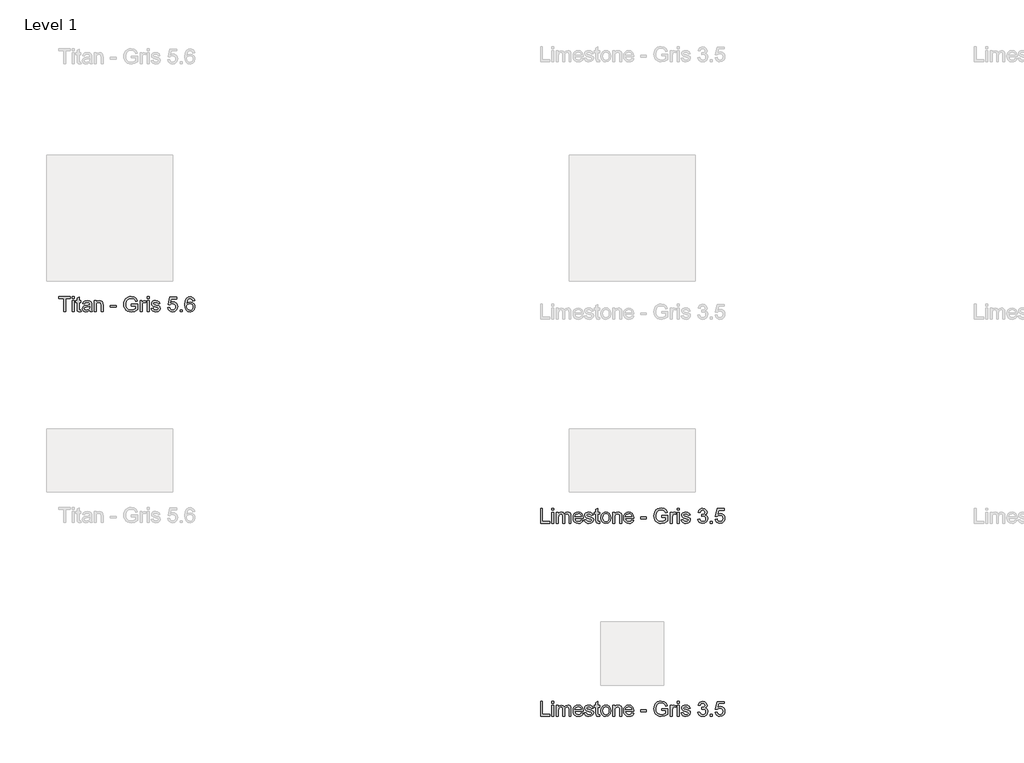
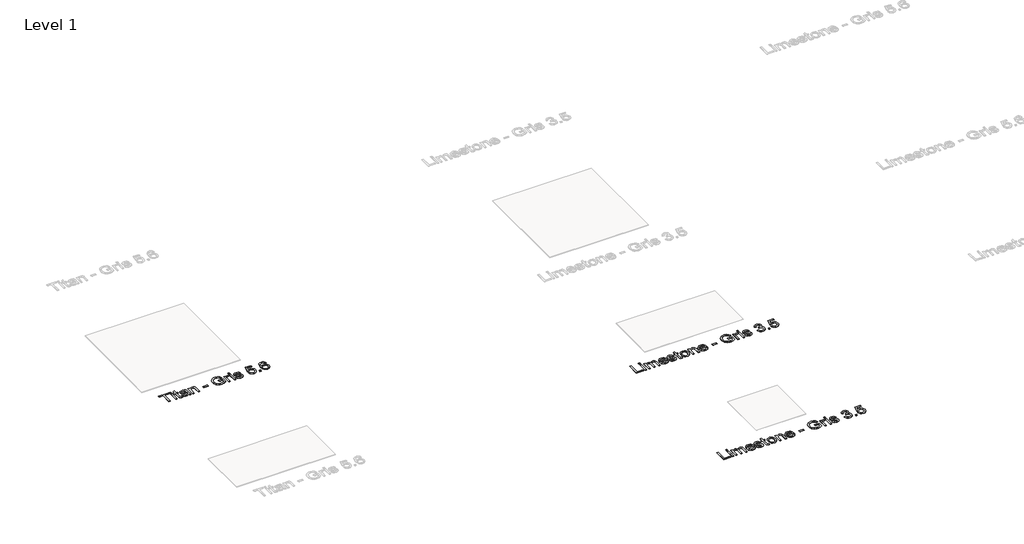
# One storey, part 4 of 80: 3 proxies.
"""IFC4 building model written with IfcOpenShell, lengths in millimetres."""

from ifc_helpers import new_model, si_unit, origin, origin_with_axes, place, context, project, spatial, polyline, outline, extrude, element, save

model = new_model("IFC4")

# Units and contexts
model_context = context("Model", 3, world=origin())
ifc_project = project(units=[si_unit("LENGTHUNIT", "METRE", prefix="MILLI")], contexts=[model_context])

# Site, building, storey
site = spatial("IfcSite", under=ifc_project)
building = spatial("IfcBuilding", under=site)
storey = spatial("IfcBuildingStorey", under=building, Name="Level 1", Elevation=0.0)

# Proxies
placement = place(None, origin())
element("IfcBuildingElementProxy", 1, Name="24\" Arial", ObjectType="24\" Arial", at=placement, inside=storey, context=model_context, shape_type="SweptSolid", body=[
    extrude(outline(polyline([(-19231.9991848, -20313.2188289), (-19231.9991848, -20195.0649827), (-19217.2299541, -20195.0649827), (-19217.2299541, -20298.4495981), (-19158.153031, -20298.4495981), (-19158.153031, -20313.2188289), (-19231.9991848, -20313.2188289)])), origin_with_axes(), (0.0, 0.0, 1.0), 2.0),
    extrude(outline(polyline([(-19143.3838002, -20209.8342135), (-19143.3838002, -20195.0649827), (-19128.6145694, -20195.0649827), (-19128.6145694, -20209.8342135), (-19143.3838002, -20209.8342135)])), origin_with_axes(), (0.0, 0.0, 1.0), 2.0),
    extrude(outline(polyline([(-19143.3838002, -20313.2188289), (-19143.3838002, -20226.4495981), (-19128.6145694, -20226.4495981), (-19128.6145694, -20313.2188289), (-19143.3838002, -20313.2188289)])), origin_with_axes(), (0.0, 0.0, 1.0), 2.0),
    extrude(outline(polyline([(-19106.4607233, -20313.2188289), (-19106.4607233, -20226.4495981), (-19091.6914925, -20226.4495981), (-19091.6914925, -20240.7284443), (-19081.5376464, -20229.0313289), (-19067.0857233, -20224.6034443), (-19052.2876464, -20229.1178673), (-19044.153031, -20241.7669058), (-19032.6289925, -20228.8943097), (-19018.0761079, -20224.6034443), (-19006.9739444, -20226.3883), (-18998.7636079, -20231.7428673), (-18993.6902906, -20240.811377), (-18991.9991848, -20253.7380597), (-18991.9991848, -20313.2188289), (-19006.7684156, -20313.2188289), (-19006.7684156, -20260.0842135), (-19008.1386079, -20247.7524827), (-19013.1001464, -20241.6803673), (-19021.5376464, -20239.372675), (-19029.5388483, -20240.8510404), (-19036.0616848, -20245.2861366), (-19040.3994252, -20252.9808481), (-19041.8453387, -20264.2380597), (-19041.8453387, -20313.2188289), (-19056.6145694, -20313.2188289), (-19056.6145694, -20258.4399827), (-19060.0328387, -20244.1322904), (-19071.2395694, -20239.372675), (-19082.1722617, -20242.545752), (-19089.4414925, -20251.8342135), (-19091.6914925, -20269.4592135), (-19091.6914925, -20313.2188289), (-19106.4607233, -20313.2188289)])), origin_with_axes(), (0.0, 0.0, 1.0), 2.0),
    extrude(outline(polyline([(-18909.0953387, -20287.372675), (-18894.6145694, -20289.2188289), (-18899.8321175, -20300.1298866), (-18908.1578387, -20308.2861366), (-18919.4042329, -20313.3702712), (-18933.3838002, -20315.0649827), (-18950.7131271, -20312.1407039), (-18964.0472617, -20303.3678673), (-18972.5496656, -20289.3161847), (-18975.3838002, -20270.5553673), (-18972.5208194, -20251.1635404), (-18963.9318771, -20236.6611366), (-18950.778031, -20227.6178673), (-18934.2203387, -20224.6034443), (-18918.1782714, -20227.6106558), (-18905.3597617, -20236.6322904), (-18896.9547137, -20251.1058481), (-18894.153031, -20270.4688289), (-18894.2395694, -20274.4495981), (-18960.6145694, -20274.4495981), (-18958.0580791, -20285.5048866), (-18952.1193771, -20293.6322904), (-18943.5484637, -20298.6298866), (-18933.0953387, -20300.295752), (-18918.6145694, -20297.2092135), (-18909.0953387, -20287.372675)]), holes=[polyline([(-18960.6145694, -20259.6803673), (-18908.9222617, -20259.6803673), (-18914.8357233, -20246.295752), (-18923.4463002, -20241.1034443), (-18934.278031, -20239.372675), (-18952.465531, -20244.8967135), (-18958.1878867, -20251.3546462), (-18960.6145694, -20259.6803673)])]), origin_with_axes(), (0.0, 0.0, 1.0), 2.0),
    extrude(outline(polyline([(-18884.9222617, -20287.372675), (-18870.153031, -20285.5265212), (-18863.3164925, -20296.4880597), (-18847.653031, -20300.295752), (-18832.5953387, -20296.8053673), (-18827.6914925, -20288.6130597), (-18832.6241848, -20281.9784443), (-18847.8261079, -20277.7669058), (-18870.0664925, -20270.5409443), (-18879.7732233, -20262.1034443), (-18883.0761079, -20250.1899827), (-18880.4222617, -20239.185175), (-18873.1818771, -20230.7765212), (-18863.7924541, -20226.4063289), (-18851.0857233, -20224.6034443), (-18833.1145694, -20227.5024827), (-18821.6914925, -20235.3486366), (-18816.6145694, -20248.6034443), (-18831.3838002, -20250.4495981), (-18836.9366848, -20242.3005597), (-18849.9318771, -20239.372675), (-18864.0664925, -20242.170752), (-18868.3068771, -20248.6899827), (-18866.5472617, -20252.9880597), (-18861.0376464, -20256.247675), (-18848.3164925, -20259.3919058), (-18826.6386079, -20266.3438289), (-18816.5713002, -20274.2188289), (-18812.9222617, -20287.0553673), (-18817.2059156, -20301.1899827), (-18829.5664925, -20311.4447904), (-18847.8549541, -20315.0649827), (-18862.746781, -20313.3197904), (-18873.6145694, -20308.0842135), (-18880.8693771, -20299.4159443), (-18884.9222617, -20287.372675)])), origin_with_axes(), (0.0, 0.0, 1.0), 2.0),
    extrude(outline(polyline([(-18764.9222617, -20300.9015212), (-18763.0761079, -20313.6515212), (-18774.1241848, -20315.0649827), (-18786.4991848, -20312.6130597), (-18792.6722617, -20306.1803673), (-18794.4607233, -20289.420752), (-18794.4607233, -20241.2188289), (-18805.5376464, -20241.2188289), (-18805.5376464, -20226.4495981), (-18794.4607233, -20226.4495981), (-18794.4607233, -20205.3630597), (-18779.6914925, -20196.6803673), (-18779.6914925, -20226.4495981), (-18764.9222617, -20226.4495981), (-18764.9222617, -20241.2188289), (-18779.6914925, -20241.2188289), (-18779.6914925, -20288.9880597), (-18778.9126464, -20296.6034443), (-18776.3886079, -20299.3005597), (-18771.3549541, -20300.295752), (-18764.9222617, -20300.9015212)])), origin_with_axes(), (0.0, 0.0, 1.0), 2.0),
    extrude(outline(polyline([(-18753.8453387, -20269.8342135), (-18750.6506271, -20248.9135404), (-18741.0664925, -20234.2092135), (-18729.2251464, -20227.0048866), (-18715.0472617, -20224.6034443), (-18699.5316367, -20227.5277231), (-18687.1386079, -20236.3005597), (-18679.0148098, -20250.2296462), (-18676.3068771, -20268.622675), (-18681.0953387, -20294.9015212), (-18695.0424541, -20309.7717135), (-18715.0472617, -20315.0649827), (-18730.7503867, -20312.1515212), (-18743.1289925, -20303.4111366), (-18751.1662521, -20289.1899827), (-18753.8453387, -20269.8342135)]), holes=[polyline([(-18739.0761079, -20269.8053673), (-18737.3669733, -20283.1719539), (-18732.2395694, -20292.6947904), (-18724.5232233, -20298.3955116), (-18715.0472617, -20300.295752), (-18705.6145694, -20298.3846943), (-18697.9126464, -20292.6515212), (-18692.7852425, -20283.0024827), (-18691.0761079, -20269.3438289), (-18692.7960598, -20256.3666654), (-18697.9559156, -20246.9736366), (-18705.668656, -20241.2729154), (-18715.0472617, -20239.372675), (-18724.5232233, -20241.2657039), (-18732.2395694, -20246.9447904), (-18737.3669733, -20256.4459923), (-18739.0761079, -20269.8053673)])]), origin_with_axes(), (0.0, 0.0, 1.0), 2.0),
    extrude(outline(polyline([(-18659.6914925, -20313.2188289), (-18659.6914925, -20226.4495981), (-18644.9222617, -20226.4495981), (-18644.9222617, -20238.5649827), (-18633.6289925, -20228.0938289), (-18618.2107233, -20224.6034443), (-18604.2636079, -20227.4159443), (-18594.7443771, -20234.8005597), (-18590.3164925, -20245.6611366), (-18589.5376464, -20259.9399827), (-18589.5376464, -20313.2188289), (-18604.3068771, -20313.2188289), (-18604.3068771, -20261.9303673), (-18606.0088002, -20248.8630597), (-18612.0232233, -20241.9544058), (-18622.1626464, -20239.372675), (-18638.1866848, -20245.170752), (-18643.2383675, -20253.5721943), (-18644.9222617, -20267.1803673), (-18644.9222617, -20313.2188289), (-18659.6914925, -20313.2188289)])), origin_with_axes(), (0.0, 0.0, 1.0), 2.0),
    extrude(outline(polyline([(-18508.4799541, -20287.372675), (-18493.9991848, -20289.2188289), (-18499.2167329, -20300.1298866), (-18507.5424541, -20308.2861366), (-18518.7888483, -20313.3702712), (-18532.7684156, -20315.0649827), (-18550.0977425, -20312.1407039), (-18563.4318771, -20303.3678673), (-18571.934281, -20289.3161847), (-18574.7684156, -20270.5553673), (-18571.9054348, -20251.1635404), (-18563.3164925, -20236.6611366), (-18550.1626464, -20227.6178673), (-18533.6049541, -20224.6034443), (-18517.5628867, -20227.6106558), (-18504.7443771, -20236.6322904), (-18496.3393291, -20251.1058481), (-18493.5376464, -20270.4688289), (-18493.6241848, -20274.4495981), (-18559.9991848, -20274.4495981), (-18557.4426944, -20285.5048866), (-18551.5039925, -20293.6322904), (-18542.9330791, -20298.6298866), (-18532.4799541, -20300.295752), (-18517.9991848, -20297.2092135), (-18508.4799541, -20287.372675)]), holes=[polyline([(-18559.9991848, -20259.6803673), (-18508.3068771, -20259.6803673), (-18514.2203387, -20246.295752), (-18522.8309156, -20241.1034443), (-18533.6626464, -20239.372675), (-18551.8501464, -20244.8967135), (-18557.5725021, -20251.3546462), (-18559.9991848, -20259.6803673)])]), origin_with_axes(), (0.0, 0.0, 1.0), 2.0),
    extrude(outline(polyline([(-18439.9991848, -20278.1419058), (-18439.9991848, -20263.372675), (-18393.8453387, -20263.372675), (-18393.8453387, -20278.1419058), (-18439.9991848, -20278.1419058)])), origin_with_axes(), (0.0, 0.0, 1.0), 2.0),
    extrude(outline(polyline([(-18273.8453387, -20267.0649827), (-18273.8453387, -20252.295752), (-18225.8453387, -20252.295752), (-18225.8453387, -20296.4592135), (-18249.5424541, -20310.3919058), (-18274.5953387, -20315.0649827), (-18291.1638483, -20313.2080116), (-18306.1386079, -20307.6370981), (-18318.5785117, -20298.5469539), (-18327.5424541, -20286.1322904), (-18332.9619252, -20271.2404635), (-18334.7684156, -20254.7188289), (-18332.9691367, -20238.0782039), (-18327.5713002, -20222.5986366), (-18318.7984637, -20209.6142616), (-18306.8741848, -20200.4592135), (-18292.3501464, -20195.028925), (-18275.778031, -20193.2188289), (-18252.6722617, -20197.4159443), (-18236.4751464, -20209.0986366), (-18227.5472617, -20228.6419058), (-18241.1626464, -20232.4784443), (-18247.8982233, -20218.8197904), (-18259.4078387, -20210.9447904), (-18276.0088002, -20207.9880597), (-18294.9174541, -20211.1755597), (-18307.7828387, -20219.5409443), (-18315.3838002, -20230.920752), (-18319.9991848, -20254.1130597), (-18318.6109637, -20268.2368577), (-18314.4463002, -20279.858252), (-18307.6313964, -20288.8943097), (-18298.2924541, -20295.2620981), (-18275.778031, -20300.295752), (-18255.5713002, -20296.5024827), (-18240.6145694, -20288.4111366), (-18240.6145694, -20267.0649827), (-18273.8453387, -20267.0649827)])), origin_with_axes(), (0.0, 0.0, 1.0), 2.0),
    extrude(outline(polyline([(-18203.6914925, -20313.2188289), (-18203.6914925, -20226.4495981), (-18190.7684156, -20226.4495981), (-18190.7684156, -20239.2861366), (-18181.5953387, -20227.4592135), (-18172.3645694, -20224.6034443), (-18157.5376464, -20229.1611366), (-18162.4703387, -20242.4015212), (-18172.8549541, -20239.372675), (-18181.2059156, -20242.2861366), (-18186.528031, -20250.3630597), (-18188.9222617, -20267.6130597), (-18188.9222617, -20313.2188289), (-18203.6914925, -20313.2188289)])), origin_with_axes(), (0.0, 0.0, 1.0), 2.0),
    extrude(outline(polyline([(-18148.3068771, -20209.8342135), (-18148.3068771, -20195.0649827), (-18133.5376464, -20195.0649827), (-18133.5376464, -20209.8342135), (-18148.3068771, -20209.8342135)])), origin_with_axes(), (0.0, 0.0, 1.0), 2.0),
    extrude(outline(polyline([(-18148.3068771, -20313.2188289), (-18148.3068771, -20226.4495981), (-18133.5376464, -20226.4495981), (-18133.5376464, -20313.2188289), (-18148.3068771, -20313.2188289)])), origin_with_axes(), (0.0, 0.0, 1.0), 2.0),
    extrude(outline(polyline([(-18116.9222617, -20287.372675), (-18102.153031, -20285.5265212), (-18095.3164925, -20296.4880597), (-18079.653031, -20300.295752), (-18064.5953387, -20296.8053673), (-18059.6914925, -20288.6130597), (-18064.6241848, -20281.9784443), (-18079.8261079, -20277.7669058), (-18102.0664925, -20270.5409443), (-18111.7732233, -20262.1034443), (-18115.0761079, -20250.1899827), (-18112.4222617, -20239.185175), (-18105.1818771, -20230.7765212), (-18095.7924541, -20226.4063289), (-18083.0857233, -20224.6034443), (-18065.1145694, -20227.5024827), (-18053.6914925, -20235.3486366), (-18048.6145694, -20248.6034443), (-18063.3838002, -20250.4495981), (-18068.9366848, -20242.3005597), (-18081.9318771, -20239.372675), (-18096.0664925, -20242.170752), (-18100.3068771, -20248.6899827), (-18098.5472617, -20252.9880597), (-18093.0376464, -20256.247675), (-18080.3164925, -20259.3919058), (-18058.6386079, -20266.3438289), (-18048.5713002, -20274.2188289), (-18044.9222617, -20287.0553673), (-18049.2059156, -20301.1899827), (-18061.5664925, -20311.4447904), (-18079.8549541, -20315.0649827), (-18094.746781, -20313.3197904), (-18105.6145694, -20308.0842135), (-18112.8693771, -20299.4159443), (-18116.9222617, -20287.372675)])), origin_with_axes(), (0.0, 0.0, 1.0), 2.0),
    extrude(outline(polyline([(-17985.8453387, -20281.8342135), (-17971.0761079, -20279.9880597), (-17962.9270694, -20295.5361366), (-17947.6818771, -20300.295752), (-17937.5568771, -20298.6587327), (-17929.7395694, -20293.747675), (-17924.7419733, -20286.420752), (-17923.0761079, -20277.5361366), (-17924.7275502, -20269.1022423), (-17929.6818771, -20262.2620981), (-17937.1818771, -20257.7296462), (-17946.4703387, -20256.2188289), (-17956.8261079, -20257.8342135), (-17955.1818771, -20243.0649827), (-17952.8164925, -20243.2380597), (-17936.0568771, -20238.997675), (-17930.4751464, -20233.6178673), (-17928.6145694, -20225.9592135), (-17934.0088002, -20214.4063289), (-17947.9126464, -20209.8342135), (-17961.9895694, -20214.4495981), (-17969.2299541, -20228.295752), (-17983.9991848, -20226.4495981), (-17979.6506271, -20213.1875789), (-17971.9126464, -20203.2861366), (-17961.3261079, -20197.1202712), (-17948.4318771, -20195.0649827), (-17930.6193771, -20199.1178673), (-17918.1578387, -20210.1947904), (-17913.8453387, -20225.0938289), (-17917.9414925, -20238.7092135), (-17930.0568771, -20248.4880597), (-17920.8116848, -20252.2236366), (-17913.9607233, -20258.5842135), (-17909.7203387, -20267.2236366), (-17908.3068771, -20277.795752), (-17911.1338002, -20292.1899827), (-17919.6145694, -20304.2188289), (-17932.4150502, -20312.3534443), (-17948.2011079, -20315.0649827), (-17962.4799541, -20312.7500789), (-17974.1049541, -20305.8053673), (-17982.1890887, -20295.1827712), (-17985.8453387, -20281.8342135)])), origin_with_axes(), (0.0, 0.0, 1.0), 2.0),
    extrude(outline(polyline([(-17887.9991848, -20313.2188289), (-17887.9991848, -20298.4495981), (-17873.2299541, -20298.4495981), (-17873.2299541, -20313.2188289), (-17887.9991848, -20313.2188289)])), origin_with_axes(), (0.0, 0.0, 1.0), 2.0),
    extrude(outline(polyline([(-17849.2299541, -20281.8342135), (-17834.4607233, -20279.9880597), (-17827.0184156, -20295.2044058), (-17811.5857233, -20300.295752), (-17800.9991848, -20298.5253193), (-17793.0664925, -20293.2140212), (-17788.1121656, -20284.9748385), (-17786.4607233, -20274.420752), (-17788.0075983, -20264.483252), (-17792.6482233, -20256.8822904), (-17800.418656, -20252.0577712), (-17811.3549541, -20250.4495981), (-17824.3213002, -20253.0169058), (-17832.6145694, -20259.6803673), (-17847.3838002, -20257.8342135), (-17834.4607233, -20196.9111366), (-17777.2299541, -20196.9111366), (-17777.2299541, -20211.6803673), (-17822.5184156, -20211.6803673), (-17828.8357233, -20244.2188289), (-17818.2852425, -20237.8149827), (-17807.2299541, -20235.6803673), (-17793.4306752, -20238.327002), (-17781.9751464, -20246.2669058), (-17774.262406, -20258.3678673), (-17771.6914925, -20273.497675), (-17774.0063964, -20288.2669058), (-17780.9511079, -20300.9015212), (-17794.2491848, -20311.5241173), (-17811.6434156, -20315.0649827), (-17826.1494252, -20312.7897423), (-17837.7059156, -20305.9640212), (-17845.6277906, -20295.3810885), (-17849.2299541, -20281.8342135)])), origin_with_axes(), (0.0, 0.0, 1.0), 2.0),
])
element("IfcBuildingElementProxy", 2, Name="24\" Arial", ObjectType="24\" Arial", at=placement, inside=storey, context=model_context, shape_type="SweptSolid", body=[
    extrude(outline(polyline([(-19231.9991848, -21843.2188289), (-19231.9991848, -21725.0649827), (-19217.2299541, -21725.0649827), (-19217.2299541, -21828.4495981), (-19158.153031, -21828.4495981), (-19158.153031, -21843.2188289), (-19231.9991848, -21843.2188289)])), origin_with_axes(), (0.0, 0.0, 1.0), 2.0),
    extrude(outline(polyline([(-19143.3838002, -21739.8342135), (-19143.3838002, -21725.0649827), (-19128.6145694, -21725.0649827), (-19128.6145694, -21739.8342135), (-19143.3838002, -21739.8342135)])), origin_with_axes(), (0.0, 0.0, 1.0), 2.0),
    extrude(outline(polyline([(-19143.3838002, -21843.2188289), (-19143.3838002, -21756.4495981), (-19128.6145694, -21756.4495981), (-19128.6145694, -21843.2188289), (-19143.3838002, -21843.2188289)])), origin_with_axes(), (0.0, 0.0, 1.0), 2.0),
    extrude(outline(polyline([(-19106.4607233, -21843.2188289), (-19106.4607233, -21756.4495981), (-19091.6914925, -21756.4495981), (-19091.6914925, -21770.7284443), (-19081.5376464, -21759.0313289), (-19067.0857233, -21754.6034443), (-19052.2876464, -21759.1178673), (-19044.153031, -21771.7669058), (-19032.6289925, -21758.8943097), (-19018.0761079, -21754.6034443), (-19006.9739444, -21756.3883), (-18998.7636079, -21761.7428673), (-18993.6902906, -21770.811377), (-18991.9991848, -21783.7380597), (-18991.9991848, -21843.2188289), (-19006.7684156, -21843.2188289), (-19006.7684156, -21790.0842135), (-19008.1386079, -21777.7524827), (-19013.1001464, -21771.6803673), (-19021.5376464, -21769.372675), (-19029.5388483, -21770.8510404), (-19036.0616848, -21775.2861366), (-19040.3994252, -21782.9808481), (-19041.8453387, -21794.2380597), (-19041.8453387, -21843.2188289), (-19056.6145694, -21843.2188289), (-19056.6145694, -21788.4399827), (-19060.0328387, -21774.1322904), (-19071.2395694, -21769.372675), (-19082.1722617, -21772.545752), (-19089.4414925, -21781.8342135), (-19091.6914925, -21799.4592135), (-19091.6914925, -21843.2188289), (-19106.4607233, -21843.2188289)])), origin_with_axes(), (0.0, 0.0, 1.0), 2.0),
    extrude(outline(polyline([(-18909.0953387, -21817.372675), (-18894.6145694, -21819.2188289), (-18899.8321175, -21830.1298866), (-18908.1578387, -21838.2861366), (-18919.4042329, -21843.3702712), (-18933.3838002, -21845.0649827), (-18950.7131271, -21842.1407039), (-18964.0472617, -21833.3678673), (-18972.5496656, -21819.3161847), (-18975.3838002, -21800.5553673), (-18972.5208194, -21781.1635404), (-18963.9318771, -21766.6611366), (-18950.778031, -21757.6178673), (-18934.2203387, -21754.6034443), (-18918.1782714, -21757.6106558), (-18905.3597617, -21766.6322904), (-18896.9547137, -21781.1058481), (-18894.153031, -21800.4688289), (-18894.2395694, -21804.4495981), (-18960.6145694, -21804.4495981), (-18958.0580791, -21815.5048866), (-18952.1193771, -21823.6322904), (-18943.5484637, -21828.6298866), (-18933.0953387, -21830.295752), (-18918.6145694, -21827.2092135), (-18909.0953387, -21817.372675)]), holes=[polyline([(-18960.6145694, -21789.6803673), (-18908.9222617, -21789.6803673), (-18914.8357233, -21776.295752), (-18923.4463002, -21771.1034443), (-18934.278031, -21769.372675), (-18952.465531, -21774.8967135), (-18958.1878867, -21781.3546462), (-18960.6145694, -21789.6803673)])]), origin_with_axes(), (0.0, 0.0, 1.0), 2.0),
    extrude(outline(polyline([(-18884.9222617, -21817.372675), (-18870.153031, -21815.5265212), (-18863.3164925, -21826.4880597), (-18847.653031, -21830.295752), (-18832.5953387, -21826.8053673), (-18827.6914925, -21818.6130597), (-18832.6241848, -21811.9784443), (-18847.8261079, -21807.7669058), (-18870.0664925, -21800.5409443), (-18879.7732233, -21792.1034443), (-18883.0761079, -21780.1899827), (-18880.4222617, -21769.185175), (-18873.1818771, -21760.7765212), (-18863.7924541, -21756.4063289), (-18851.0857233, -21754.6034443), (-18833.1145694, -21757.5024827), (-18821.6914925, -21765.3486366), (-18816.6145694, -21778.6034443), (-18831.3838002, -21780.4495981), (-18836.9366848, -21772.3005597), (-18849.9318771, -21769.372675), (-18864.0664925, -21772.170752), (-18868.3068771, -21778.6899827), (-18866.5472617, -21782.9880597), (-18861.0376464, -21786.247675), (-18848.3164925, -21789.3919058), (-18826.6386079, -21796.3438289), (-18816.5713002, -21804.2188289), (-18812.9222617, -21817.0553673), (-18817.2059156, -21831.1899827), (-18829.5664925, -21841.4447904), (-18847.8549541, -21845.0649827), (-18862.746781, -21843.3197904), (-18873.6145694, -21838.0842135), (-18880.8693771, -21829.4159443), (-18884.9222617, -21817.372675)])), origin_with_axes(), (0.0, 0.0, 1.0), 2.0),
    extrude(outline(polyline([(-18764.9222617, -21830.9015212), (-18763.0761079, -21843.6515212), (-18774.1241848, -21845.0649827), (-18786.4991848, -21842.6130597), (-18792.6722617, -21836.1803673), (-18794.4607233, -21819.420752), (-18794.4607233, -21771.2188289), (-18805.5376464, -21771.2188289), (-18805.5376464, -21756.4495981), (-18794.4607233, -21756.4495981), (-18794.4607233, -21735.3630597), (-18779.6914925, -21726.6803673), (-18779.6914925, -21756.4495981), (-18764.9222617, -21756.4495981), (-18764.9222617, -21771.2188289), (-18779.6914925, -21771.2188289), (-18779.6914925, -21818.9880597), (-18778.9126464, -21826.6034443), (-18776.3886079, -21829.3005597), (-18771.3549541, -21830.295752), (-18764.9222617, -21830.9015212)])), origin_with_axes(), (0.0, 0.0, 1.0), 2.0),
    extrude(outline(polyline([(-18753.8453387, -21799.8342135), (-18750.6506271, -21778.9135404), (-18741.0664925, -21764.2092135), (-18729.2251464, -21757.0048866), (-18715.0472617, -21754.6034443), (-18699.5316367, -21757.5277231), (-18687.1386079, -21766.3005597), (-18679.0148098, -21780.2296462), (-18676.3068771, -21798.622675), (-18681.0953387, -21824.9015212), (-18695.0424541, -21839.7717135), (-18715.0472617, -21845.0649827), (-18730.7503867, -21842.1515212), (-18743.1289925, -21833.4111366), (-18751.1662521, -21819.1899827), (-18753.8453387, -21799.8342135)]), holes=[polyline([(-18739.0761079, -21799.8053673), (-18737.3669733, -21813.1719539), (-18732.2395694, -21822.6947904), (-18724.5232233, -21828.3955116), (-18715.0472617, -21830.295752), (-18705.6145694, -21828.3846943), (-18697.9126464, -21822.6515212), (-18692.7852425, -21813.0024827), (-18691.0761079, -21799.3438289), (-18692.7960598, -21786.3666654), (-18697.9559156, -21776.9736366), (-18705.668656, -21771.2729154), (-18715.0472617, -21769.372675), (-18724.5232233, -21771.2657039), (-18732.2395694, -21776.9447904), (-18737.3669733, -21786.4459923), (-18739.0761079, -21799.8053673)])]), origin_with_axes(), (0.0, 0.0, 1.0), 2.0),
    extrude(outline(polyline([(-18659.6914925, -21843.2188289), (-18659.6914925, -21756.4495981), (-18644.9222617, -21756.4495981), (-18644.9222617, -21768.5649827), (-18633.6289925, -21758.0938289), (-18618.2107233, -21754.6034443), (-18604.2636079, -21757.4159443), (-18594.7443771, -21764.8005597), (-18590.3164925, -21775.6611366), (-18589.5376464, -21789.9399827), (-18589.5376464, -21843.2188289), (-18604.3068771, -21843.2188289), (-18604.3068771, -21791.9303673), (-18606.0088002, -21778.8630597), (-18612.0232233, -21771.9544058), (-18622.1626464, -21769.372675), (-18638.1866848, -21775.170752), (-18643.2383675, -21783.5721943), (-18644.9222617, -21797.1803673), (-18644.9222617, -21843.2188289), (-18659.6914925, -21843.2188289)])), origin_with_axes(), (0.0, 0.0, 1.0), 2.0),
    extrude(outline(polyline([(-18508.4799541, -21817.372675), (-18493.9991848, -21819.2188289), (-18499.2167329, -21830.1298866), (-18507.5424541, -21838.2861366), (-18518.7888483, -21843.3702712), (-18532.7684156, -21845.0649827), (-18550.0977425, -21842.1407039), (-18563.4318771, -21833.3678673), (-18571.934281, -21819.3161847), (-18574.7684156, -21800.5553673), (-18571.9054348, -21781.1635404), (-18563.3164925, -21766.6611366), (-18550.1626464, -21757.6178673), (-18533.6049541, -21754.6034443), (-18517.5628867, -21757.6106558), (-18504.7443771, -21766.6322904), (-18496.3393291, -21781.1058481), (-18493.5376464, -21800.4688289), (-18493.6241848, -21804.4495981), (-18559.9991848, -21804.4495981), (-18557.4426944, -21815.5048866), (-18551.5039925, -21823.6322904), (-18542.9330791, -21828.6298866), (-18532.4799541, -21830.295752), (-18517.9991848, -21827.2092135), (-18508.4799541, -21817.372675)]), holes=[polyline([(-18559.9991848, -21789.6803673), (-18508.3068771, -21789.6803673), (-18514.2203387, -21776.295752), (-18522.8309156, -21771.1034443), (-18533.6626464, -21769.372675), (-18551.8501464, -21774.8967135), (-18557.5725021, -21781.3546462), (-18559.9991848, -21789.6803673)])]), origin_with_axes(), (0.0, 0.0, 1.0), 2.0),
    extrude(outline(polyline([(-18439.9991848, -21808.1419058), (-18439.9991848, -21793.372675), (-18393.8453387, -21793.372675), (-18393.8453387, -21808.1419058), (-18439.9991848, -21808.1419058)])), origin_with_axes(), (0.0, 0.0, 1.0), 2.0),
    extrude(outline(polyline([(-18273.8453387, -21797.0649827), (-18273.8453387, -21782.295752), (-18225.8453387, -21782.295752), (-18225.8453387, -21826.4592135), (-18249.5424541, -21840.3919058), (-18274.5953387, -21845.0649827), (-18291.1638483, -21843.2080116), (-18306.1386079, -21837.6370981), (-18318.5785117, -21828.5469539), (-18327.5424541, -21816.1322904), (-18332.9619252, -21801.2404635), (-18334.7684156, -21784.7188289), (-18332.9691367, -21768.0782039), (-18327.5713002, -21752.5986366), (-18318.7984637, -21739.6142616), (-18306.8741848, -21730.4592135), (-18292.3501464, -21725.028925), (-18275.778031, -21723.2188289), (-18252.6722617, -21727.4159443), (-18236.4751464, -21739.0986366), (-18227.5472617, -21758.6419058), (-18241.1626464, -21762.4784443), (-18247.8982233, -21748.8197904), (-18259.4078387, -21740.9447904), (-18276.0088002, -21737.9880597), (-18294.9174541, -21741.1755597), (-18307.7828387, -21749.5409443), (-18315.3838002, -21760.920752), (-18319.9991848, -21784.1130597), (-18318.6109637, -21798.2368577), (-18314.4463002, -21809.858252), (-18307.6313964, -21818.8943097), (-18298.2924541, -21825.2620981), (-18275.778031, -21830.295752), (-18255.5713002, -21826.5024827), (-18240.6145694, -21818.4111366), (-18240.6145694, -21797.0649827), (-18273.8453387, -21797.0649827)])), origin_with_axes(), (0.0, 0.0, 1.0), 2.0),
    extrude(outline(polyline([(-18203.6914925, -21843.2188289), (-18203.6914925, -21756.4495981), (-18190.7684156, -21756.4495981), (-18190.7684156, -21769.2861366), (-18181.5953387, -21757.4592135), (-18172.3645694, -21754.6034443), (-18157.5376464, -21759.1611366), (-18162.4703387, -21772.4015212), (-18172.8549541, -21769.372675), (-18181.2059156, -21772.2861366), (-18186.528031, -21780.3630597), (-18188.9222617, -21797.6130597), (-18188.9222617, -21843.2188289), (-18203.6914925, -21843.2188289)])), origin_with_axes(), (0.0, 0.0, 1.0), 2.0),
    extrude(outline(polyline([(-18148.3068771, -21739.8342135), (-18148.3068771, -21725.0649827), (-18133.5376464, -21725.0649827), (-18133.5376464, -21739.8342135), (-18148.3068771, -21739.8342135)])), origin_with_axes(), (0.0, 0.0, 1.0), 2.0),
    extrude(outline(polyline([(-18148.3068771, -21843.2188289), (-18148.3068771, -21756.4495981), (-18133.5376464, -21756.4495981), (-18133.5376464, -21843.2188289), (-18148.3068771, -21843.2188289)])), origin_with_axes(), (0.0, 0.0, 1.0), 2.0),
    extrude(outline(polyline([(-18116.9222617, -21817.372675), (-18102.153031, -21815.5265212), (-18095.3164925, -21826.4880597), (-18079.653031, -21830.295752), (-18064.5953387, -21826.8053673), (-18059.6914925, -21818.6130597), (-18064.6241848, -21811.9784443), (-18079.8261079, -21807.7669058), (-18102.0664925, -21800.5409443), (-18111.7732233, -21792.1034443), (-18115.0761079, -21780.1899827), (-18112.4222617, -21769.185175), (-18105.1818771, -21760.7765212), (-18095.7924541, -21756.4063289), (-18083.0857233, -21754.6034443), (-18065.1145694, -21757.5024827), (-18053.6914925, -21765.3486366), (-18048.6145694, -21778.6034443), (-18063.3838002, -21780.4495981), (-18068.9366848, -21772.3005597), (-18081.9318771, -21769.372675), (-18096.0664925, -21772.170752), (-18100.3068771, -21778.6899827), (-18098.5472617, -21782.9880597), (-18093.0376464, -21786.247675), (-18080.3164925, -21789.3919058), (-18058.6386079, -21796.3438289), (-18048.5713002, -21804.2188289), (-18044.9222617, -21817.0553673), (-18049.2059156, -21831.1899827), (-18061.5664925, -21841.4447904), (-18079.8549541, -21845.0649827), (-18094.746781, -21843.3197904), (-18105.6145694, -21838.0842135), (-18112.8693771, -21829.4159443), (-18116.9222617, -21817.372675)])), origin_with_axes(), (0.0, 0.0, 1.0), 2.0),
    extrude(outline(polyline([(-17985.8453387, -21811.8342135), (-17971.0761079, -21809.9880597), (-17962.9270694, -21825.5361366), (-17947.6818771, -21830.295752), (-17937.5568771, -21828.6587327), (-17929.7395694, -21823.747675), (-17924.7419733, -21816.420752), (-17923.0761079, -21807.5361366), (-17924.7275502, -21799.1022423), (-17929.6818771, -21792.2620981), (-17937.1818771, -21787.7296462), (-17946.4703387, -21786.2188289), (-17956.8261079, -21787.8342135), (-17955.1818771, -21773.0649827), (-17952.8164925, -21773.2380597), (-17936.0568771, -21768.997675), (-17930.4751464, -21763.6178673), (-17928.6145694, -21755.9592135), (-17934.0088002, -21744.4063289), (-17947.9126464, -21739.8342135), (-17961.9895694, -21744.4495981), (-17969.2299541, -21758.295752), (-17983.9991848, -21756.4495981), (-17979.6506271, -21743.1875789), (-17971.9126464, -21733.2861366), (-17961.3261079, -21727.1202712), (-17948.4318771, -21725.0649827), (-17930.6193771, -21729.1178673), (-17918.1578387, -21740.1947904), (-17913.8453387, -21755.0938289), (-17917.9414925, -21768.7092135), (-17930.0568771, -21778.4880597), (-17920.8116848, -21782.2236366), (-17913.9607233, -21788.5842135), (-17909.7203387, -21797.2236366), (-17908.3068771, -21807.795752), (-17911.1338002, -21822.1899827), (-17919.6145694, -21834.2188289), (-17932.4150502, -21842.3534443), (-17948.2011079, -21845.0649827), (-17962.4799541, -21842.7500789), (-17974.1049541, -21835.8053673), (-17982.1890887, -21825.1827712), (-17985.8453387, -21811.8342135)])), origin_with_axes(), (0.0, 0.0, 1.0), 2.0),
    extrude(outline(polyline([(-17887.9991848, -21843.2188289), (-17887.9991848, -21828.4495981), (-17873.2299541, -21828.4495981), (-17873.2299541, -21843.2188289), (-17887.9991848, -21843.2188289)])), origin_with_axes(), (0.0, 0.0, 1.0), 2.0),
    extrude(outline(polyline([(-17849.2299541, -21811.8342135), (-17834.4607233, -21809.9880597), (-17827.0184156, -21825.2044058), (-17811.5857233, -21830.295752), (-17800.9991848, -21828.5253193), (-17793.0664925, -21823.2140212), (-17788.1121656, -21814.9748385), (-17786.4607233, -21804.420752), (-17788.0075983, -21794.483252), (-17792.6482233, -21786.8822904), (-17800.418656, -21782.0577712), (-17811.3549541, -21780.4495981), (-17824.3213002, -21783.0169058), (-17832.6145694, -21789.6803673), (-17847.3838002, -21787.8342135), (-17834.4607233, -21726.9111366), (-17777.2299541, -21726.9111366), (-17777.2299541, -21741.6803673), (-17822.5184156, -21741.6803673), (-17828.8357233, -21774.2188289), (-17818.2852425, -21767.8149827), (-17807.2299541, -21765.6803673), (-17793.4306752, -21768.327002), (-17781.9751464, -21776.2669058), (-17774.262406, -21788.3678673), (-17771.6914925, -21803.497675), (-17774.0063964, -21818.2669058), (-17780.9511079, -21830.9015212), (-17794.2491848, -21841.5241173), (-17811.6434156, -21845.0649827), (-17826.1494252, -21842.7897423), (-17837.7059156, -21835.9640212), (-17845.6277906, -21825.3810885), (-17849.2299541, -21811.8342135)])), origin_with_axes(), (0.0, 0.0, 1.0), 2.0),
])
element("IfcBuildingElementProxy", 3, Name="24\" Arial", ObjectType="24\" Arial", at=placement, inside=storey, context=model_context, shape_type="SweptSolid", body=[
    extrude(outline(polyline([(-23010.153031, -18636.6855167), (-23010.153031, -18533.3009013), (-23048.9222617, -18533.3009013), (-23048.9222617, -18518.5316705), (-22956.6145694, -18518.5316705), (-22956.6145694, -18533.3009013), (-22995.3838002, -18533.3009013), (-22995.3838002, -18636.6855167), (-23010.153031, -18636.6855167)])), origin_with_axes(), (0.0, 0.0, 1.0), 2.0),
    extrude(outline(polyline([(-22941.8453387, -18636.6855167), (-22941.8453387, -18549.9162859), (-22927.0761079, -18549.9162859), (-22927.0761079, -18636.6855167), (-22941.8453387, -18636.6855167)])), origin_with_axes(), (0.0, 0.0, 1.0), 2.0),
    extrude(outline(polyline([(-22941.8453387, -18533.3009013), (-22941.8453387, -18518.5316705), (-22927.0761079, -18518.5316705), (-22927.0761079, -18533.3009013), (-22941.8453387, -18533.3009013)])), origin_with_axes(), (0.0, 0.0, 1.0), 2.0),
    extrude(outline(polyline([(-22873.5376464, -18624.368209), (-22871.6914925, -18637.118209), (-22882.7395694, -18638.5316705), (-22895.1145694, -18636.0797474), (-22901.2876464, -18629.6470551), (-22903.0761079, -18612.8874398), (-22903.0761079, -18564.6855167), (-22914.153031, -18564.6855167), (-22914.153031, -18549.9162859), (-22903.0761079, -18549.9162859), (-22903.0761079, -18528.8297474), (-22888.3068771, -18520.1470551), (-22888.3068771, -18549.9162859), (-22873.5376464, -18549.9162859), (-22873.5376464, -18564.6855167), (-22888.3068771, -18564.6855167), (-22888.3068771, -18612.4547474), (-22887.528031, -18620.0701321), (-22885.0039925, -18622.7672474), (-22879.9703387, -18623.7624398), (-22873.5376464, -18624.368209)])), origin_with_axes(), (0.0, 0.0, 1.0), 2.0),
    extrude(outline(polyline([(-22803.3838002, -18625.6085936), (-22817.7059156, -18635.618209), (-22833.528031, -18638.5316705), (-22845.8705791, -18636.7792667), (-22854.9751464, -18631.5220551), (-22860.5893291, -18623.5388821), (-22862.4607233, -18613.6085936), (-22859.6338002, -18601.9259013), (-22852.2059156, -18593.4451321), (-22841.8645694, -18588.5989782), (-22829.0857233, -18586.3778244), (-22803.4703387, -18581.3009013), (-22803.3838002, -18578.0124398), (-22807.4511079, -18567.1085936), (-22823.778031, -18562.8393628), (-22838.7203387, -18565.680709), (-22845.8453387, -18575.7624398), (-22860.6145694, -18573.9162859), (-22854.2251464, -18559.493209), (-22841.3597617, -18551.0412859), (-22821.8741848, -18548.0701321), (-22803.9751464, -18550.6951321), (-22793.8645694, -18557.2864782), (-22789.3357233, -18567.3105167), (-22788.6145694, -18580.2335936), (-22788.6145694, -18598.6085936), (-22787.8645694, -18624.2672474), (-22784.9222617, -18636.6855167), (-22799.6914925, -18636.6855167), (-22803.3838002, -18625.6085936)]), holes=[polyline([(-22803.3838002, -18596.0701321), (-22827.2107233, -18600.5989782), (-22839.9174541, -18602.993209), (-22845.6722617, -18606.8874398), (-22847.6914925, -18612.5701321), (-22843.2924541, -18620.5605167), (-22830.3838002, -18623.7624398), (-22815.4414925, -18620.2287859), (-22805.8068771, -18611.6759013), (-22803.4703387, -18600.2528244), (-22803.3838002, -18596.0701321)])]), origin_with_axes(), (0.0, 0.0, 1.0), 2.0),
    extrude(outline(polyline([(-22768.3068771, -18636.6855167), (-22768.3068771, -18549.9162859), (-22753.5376464, -18549.9162859), (-22753.5376464, -18562.0316705), (-22742.2443771, -18551.5605167), (-22726.8261079, -18548.0701321), (-22712.8789925, -18550.8826321), (-22703.3597617, -18558.2672474), (-22698.9318771, -18569.1278244), (-22698.153031, -18583.4066705), (-22698.153031, -18636.6855167), (-22712.9222617, -18636.6855167), (-22712.9222617, -18585.3970551), (-22714.6241848, -18572.3297474), (-22720.6386079, -18565.4210936), (-22730.778031, -18562.8393628), (-22746.8020694, -18568.6374398), (-22751.8537521, -18577.0388821), (-22753.5376464, -18590.6470551), (-22753.5376464, -18636.6855167), (-22768.3068771, -18636.6855167)])), origin_with_axes(), (0.0, 0.0, 1.0), 2.0),
    extrude(outline(polyline([(-22639.0761079, -18601.6085936), (-22639.0761079, -18586.8393628), (-22592.9222617, -18586.8393628), (-22592.9222617, -18601.6085936), (-22639.0761079, -18601.6085936)])), origin_with_axes(), (0.0, 0.0, 1.0), 2.0),
    extrude(outline(polyline([(-22472.9222617, -18590.5316705), (-22472.9222617, -18575.7624398), (-22424.9222617, -18575.7624398), (-22424.9222617, -18619.9259013), (-22448.6193771, -18633.8585936), (-22473.6722617, -18638.5316705), (-22490.2407714, -18636.6746994), (-22505.215531, -18631.1037859), (-22517.6554348, -18622.0136417), (-22526.6193771, -18609.5989782), (-22532.0388483, -18594.7071513), (-22533.8453387, -18578.1855167), (-22532.0460598, -18561.5448917), (-22526.6482233, -18546.0653244), (-22517.8753867, -18533.0809494), (-22505.9511079, -18523.9259013), (-22491.4270694, -18518.4956128), (-22474.8549541, -18516.6855167), (-22451.7491848, -18520.8826321), (-22435.5520694, -18532.5653244), (-22426.6241848, -18552.1085936), (-22440.2395694, -18555.9451321), (-22446.9751464, -18542.2864782), (-22458.4847617, -18534.4114782), (-22475.0857233, -18531.4547474), (-22493.9943771, -18534.6422474), (-22506.8597617, -18543.0076321), (-22514.4607233, -18554.3874398), (-22519.0761079, -18577.5797474), (-22517.6878867, -18591.7035455), (-22513.5232233, -18603.3249398), (-22506.7083194, -18612.3609974), (-22497.3693771, -18618.7287859), (-22474.8549541, -18623.7624398), (-22454.6482233, -18619.9691705), (-22439.6914925, -18611.8778244), (-22439.6914925, -18590.5316705), (-22472.9222617, -18590.5316705)])), origin_with_axes(), (0.0, 0.0, 1.0), 2.0),
    extrude(outline(polyline([(-22402.7684156, -18636.6855167), (-22402.7684156, -18549.9162859), (-22389.8453387, -18549.9162859), (-22389.8453387, -18562.7528244), (-22380.6722617, -18550.9259013), (-22371.4414925, -18548.0701321), (-22356.6145694, -18552.6278244), (-22361.5472617, -18565.868209), (-22371.9318771, -18562.8393628), (-22380.2828387, -18565.7528244), (-22385.6049541, -18573.8297474), (-22387.9991848, -18591.0797474), (-22387.9991848, -18636.6855167), (-22402.7684156, -18636.6855167)])), origin_with_axes(), (0.0, 0.0, 1.0), 2.0),
    extrude(outline(polyline([(-22347.3838002, -18636.6855167), (-22347.3838002, -18549.9162859), (-22332.6145694, -18549.9162859), (-22332.6145694, -18636.6855167), (-22347.3838002, -18636.6855167)])), origin_with_axes(), (0.0, 0.0, 1.0), 2.0),
    extrude(outline(polyline([(-22347.3838002, -18533.3009013), (-22347.3838002, -18518.5316705), (-22332.6145694, -18518.5316705), (-22332.6145694, -18533.3009013), (-22347.3838002, -18533.3009013)])), origin_with_axes(), (0.0, 0.0, 1.0), 2.0),
    extrude(outline(polyline([(-22315.9991848, -18610.8393628), (-22301.2299541, -18608.993209), (-22294.3934156, -18619.9547474), (-22278.7299541, -18623.7624398), (-22263.6722617, -18620.2720551), (-22258.7684156, -18612.0797474), (-22263.7011079, -18605.4451321), (-22278.903031, -18601.2335936), (-22301.1434156, -18594.0076321), (-22310.8501464, -18585.5701321), (-22314.153031, -18573.6566705), (-22311.4991848, -18562.6518628), (-22304.2588002, -18554.243209), (-22294.8693771, -18549.8730167), (-22282.1626464, -18548.0701321), (-22264.1914925, -18550.9691705), (-22252.7684156, -18558.8153244), (-22247.6914925, -18572.0701321), (-22262.4607233, -18573.9162859), (-22268.0136079, -18565.7672474), (-22281.0088002, -18562.8393628), (-22295.1434156, -18565.6374398), (-22299.3838002, -18572.1566705), (-22297.6241848, -18576.4547474), (-22292.1145694, -18579.7143628), (-22279.3934156, -18582.8585936), (-22257.715531, -18589.8105167), (-22247.6482233, -18597.6855167), (-22243.9991848, -18610.5220551), (-22248.2828387, -18624.6566705), (-22260.6434156, -18634.9114782), (-22278.9318771, -18638.5316705), (-22293.8237041, -18636.7864782), (-22304.6914925, -18631.5509013), (-22311.9463002, -18622.8826321), (-22315.9991848, -18610.8393628)])), origin_with_axes(), (0.0, 0.0, 1.0), 2.0),
    extrude(outline(polyline([(-22184.9222617, -18605.3009013), (-22170.153031, -18603.4547474), (-22162.7107233, -18618.6710936), (-22147.278031, -18623.7624398), (-22136.6914925, -18621.9920071), (-22128.7588002, -18616.680709), (-22123.8044733, -18608.4415263), (-22122.153031, -18597.8874398), (-22123.699906, -18587.9499398), (-22128.340531, -18580.3489782), (-22136.1109637, -18575.524459), (-22147.0472617, -18573.9162859), (-22160.0136079, -18576.4835936), (-22168.3068771, -18583.1470551), (-22183.0761079, -18581.3009013), (-22170.153031, -18520.3778244), (-22112.9222617, -18520.3778244), (-22112.9222617, -18535.1470551), (-22158.2107233, -18535.1470551), (-22164.528031, -18567.6855167), (-22153.9775502, -18561.2816705), (-22142.9222617, -18559.1470551), (-22129.1229829, -18561.7936898), (-22117.6674541, -18569.7335936), (-22109.9547137, -18581.8345551), (-22107.3838002, -18596.9643628), (-22109.6987041, -18611.7335936), (-22116.6434156, -18624.368209), (-22129.9414925, -18634.9908051), (-22147.3357233, -18638.5316705), (-22161.8417329, -18636.2564301), (-22173.3982233, -18629.430709), (-22181.3200983, -18618.8477763), (-22184.9222617, -18605.3009013)])), origin_with_axes(), (0.0, 0.0, 1.0), 2.0),
    extrude(outline(polyline([(-22087.0761079, -18636.6855167), (-22087.0761079, -18621.9162859), (-22072.3068771, -18621.9162859), (-22072.3068771, -18636.6855167), (-22087.0761079, -18636.6855167)])), origin_with_axes(), (0.0, 0.0, 1.0), 2.0),
    extrude(outline(polyline([(-21972.6145694, -18549.9162859), (-21987.3838002, -18551.7624398), (-21992.9799541, -18539.4451321), (-21999.6794733, -18534.836959), (-22007.778031, -18533.3009013), (-22021.1049541, -18536.8778244), (-22031.1866848, -18550.305709), (-22035.3838002, -18576.6278244), (-22022.3597617, -18564.8441705), (-22006.2203387, -18560.993209), (-21992.5761079, -18563.6254205), (-21981.1241848, -18571.5220551), (-21973.3573579, -18583.586959), (-21970.7684156, -18598.7239782), (-21975.6434156, -18619.1037859), (-21989.0568771, -18633.5268628), (-22008.4126464, -18638.5316705), (-22025.168656, -18635.2143628), (-22038.5136079, -18625.2624398), (-22047.2431752, -18607.6951321), (-22050.153031, -18581.5316705), (-22046.9222617, -18552.1158051), (-22037.2299541, -18532.0028244), (-22023.996781, -18521.899459), (-22006.8549541, -18518.5316705), (-21993.8958194, -18520.6158051), (-21983.5184156, -18526.868209), (-21976.2491848, -18536.7984974), (-21972.6145694, -18549.9162859)]), holes=[polyline([(-22035.3838002, -18598.493209), (-22031.965531, -18611.2864782), (-22022.8789925, -18620.5749398), (-22009.5664925, -18623.7624398), (-21999.8200983, -18622.1109974), (-21992.1578387, -18617.1566705), (-21987.1926944, -18609.368209), (-21985.5376464, -18599.2143628), (-21987.1710598, -18589.4679686), (-21992.0713002, -18582.0364782), (-21999.8633675, -18577.3309494), (-22010.1722617, -18575.7624398), (-22019.9042329, -18577.3309494), (-22028.0424541, -18582.0364782), (-22033.5484637, -18589.2876801), (-22035.3838002, -18598.493209)])]), origin_with_axes(), (0.0, 0.0, 1.0), 2.0),
])

save(model, "model.ifc")
